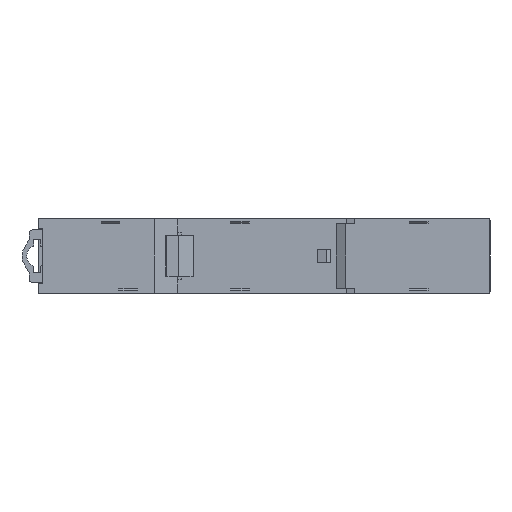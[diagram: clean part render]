
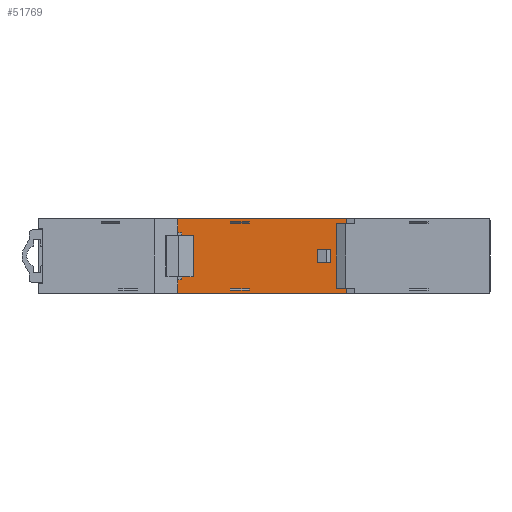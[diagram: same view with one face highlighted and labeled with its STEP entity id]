
A CAD part, front view. The second image highlights one B-rep face of the part: STEP entity #51769.
In plain terms, the highlighted planar face has unit normal (0, -1, 0).
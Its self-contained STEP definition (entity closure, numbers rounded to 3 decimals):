
#2694=ORIENTED_EDGE('',*,*,#13755,.T.);
#2695=ORIENTED_EDGE('',*,*,#13751,.T.);
#2696=ORIENTED_EDGE('',*,*,#13749,.T.);
#2697=ORIENTED_EDGE('',*,*,#13753,.T.);
#2698=ORIENTED_EDGE('',*,*,#13985,.F.);
#2699=ORIENTED_EDGE('',*,*,#13986,.T.);
#2700=ORIENTED_EDGE('',*,*,#13987,.T.);
#2701=ORIENTED_EDGE('',*,*,#13988,.T.);
#2702=ORIENTED_EDGE('',*,*,#13989,.T.);
#2703=ORIENTED_EDGE('',*,*,#13990,.T.);
#2704=ORIENTED_EDGE('',*,*,#13991,.T.);
#2705=ORIENTED_EDGE('',*,*,#13992,.T.);
#2706=ORIENTED_EDGE('',*,*,#13993,.T.);
#2707=ORIENTED_EDGE('',*,*,#13580,.F.);
#2708=ORIENTED_EDGE('',*,*,#13994,.T.);
#2709=ORIENTED_EDGE('',*,*,#13995,.F.);
#2710=ORIENTED_EDGE('',*,*,#13983,.F.);
#2711=ORIENTED_EDGE('',*,*,#13300,.T.);
#2712=ORIENTED_EDGE('',*,*,#13996,.F.);
#2713=ORIENTED_EDGE('',*,*,#13997,.F.);
#2714=ORIENTED_EDGE('',*,*,#13998,.F.);
#2715=ORIENTED_EDGE('',*,*,#13999,.F.);
#2716=ORIENTED_EDGE('',*,*,#14000,.T.);
#2717=ORIENTED_EDGE('',*,*,#14001,.T.);
#2718=ORIENTED_EDGE('',*,*,#14002,.T.);
#2719=ORIENTED_EDGE('',*,*,#14003,.T.);
#2720=ORIENTED_EDGE('',*,*,#14004,.T.);
#2721=ORIENTED_EDGE('',*,*,#14005,.T.);
#13300=EDGE_CURVE('',#19280,#19279,#23218,.T.);
#13580=EDGE_CURVE('',#19499,#19500,#23472,.T.);
#13749=EDGE_CURVE('',#19632,#19634,#23638,.T.);
#13751=EDGE_CURVE('',#19636,#19632,#23640,.T.);
#13753=EDGE_CURVE('',#19634,#19637,#23642,.T.);
#13755=EDGE_CURVE('',#19637,#19636,#23644,.T.);
#13983=EDGE_CURVE('',#19280,#19788,#23869,.T.);
#13985=EDGE_CURVE('',#19789,#19790,#23871,.T.);
#13986=EDGE_CURVE('',#19789,#19791,#23872,.T.);
#13987=EDGE_CURVE('',#19791,#19792,#23873,.T.);
#13988=EDGE_CURVE('',#19792,#19790,#23874,.T.);
#13989=EDGE_CURVE('',#19793,#19794,#23875,.T.);
#13990=EDGE_CURVE('',#19794,#19795,#23876,.T.);
#13991=EDGE_CURVE('',#19795,#19796,#23877,.T.);
#13992=EDGE_CURVE('',#19796,#19793,#23878,.T.);
#13993=EDGE_CURVE('',#19797,#19500,#23879,.T.);
#13994=EDGE_CURVE('',#19499,#19798,#23880,.T.);
#13995=EDGE_CURVE('',#19788,#19798,#23881,.T.);
#13996=EDGE_CURVE('',#19799,#19279,#23882,.T.);
#13997=EDGE_CURVE('',#19800,#19799,#23883,.T.);
#13998=EDGE_CURVE('',#19801,#19800,#23884,.T.);
#13999=EDGE_CURVE('',#19802,#19801,#23885,.T.);
#14000=EDGE_CURVE('',#19802,#19803,#23886,.T.);
#14001=EDGE_CURVE('',#19803,#19804,#23887,.T.);
#14002=EDGE_CURVE('',#19804,#19805,#23888,.T.);
#14003=EDGE_CURVE('',#19805,#19806,#23889,.T.);
#14004=EDGE_CURVE('',#19806,#19807,#23890,.T.);
#14005=EDGE_CURVE('',#19807,#19797,#23891,.T.);
#19279=VERTEX_POINT('',#67817);
#19280=VERTEX_POINT('',#67819);
#19499=VERTEX_POINT('',#68392);
#19500=VERTEX_POINT('',#68394);
#19632=VERTEX_POINT('',#68738);
#19634=VERTEX_POINT('',#68741);
#19636=VERTEX_POINT('',#68747);
#19637=VERTEX_POINT('',#68751);
#19788=VERTEX_POINT('',#69205);
#19789=VERTEX_POINT('',#69209);
#19790=VERTEX_POINT('',#69210);
#19791=VERTEX_POINT('',#69212);
#19792=VERTEX_POINT('',#69214);
#19793=VERTEX_POINT('',#69217);
#19794=VERTEX_POINT('',#69218);
#19795=VERTEX_POINT('',#69220);
#19796=VERTEX_POINT('',#69222);
#19797=VERTEX_POINT('',#69225);
#19798=VERTEX_POINT('',#69227);
#19799=VERTEX_POINT('',#69230);
#19800=VERTEX_POINT('',#69232);
#19801=VERTEX_POINT('',#69234);
#19802=VERTEX_POINT('',#69236);
#19803=VERTEX_POINT('',#69238);
#19804=VERTEX_POINT('',#69240);
#19805=VERTEX_POINT('',#69242);
#19806=VERTEX_POINT('',#69244);
#19807=VERTEX_POINT('',#69246);
#23218=LINE('',#67818,#28168);
#23472=LINE('',#68393,#28422);
#23638=LINE('',#68742,#28588);
#23640=LINE('',#68746,#28590);
#23642=LINE('',#68750,#28592);
#23644=LINE('',#68754,#28594);
#23869=LINE('',#69204,#28819);
#23871=LINE('',#69208,#28821);
#23872=LINE('',#69211,#28822);
#23873=LINE('',#69213,#28823);
#23874=LINE('',#69215,#28824);
#23875=LINE('',#69216,#28825);
#23876=LINE('',#69219,#28826);
#23877=LINE('',#69221,#28827);
#23878=LINE('',#69223,#28828);
#23879=LINE('',#69224,#28829);
#23880=LINE('',#69226,#28830);
#23881=LINE('',#69228,#28831);
#23882=LINE('',#69229,#28832);
#23883=LINE('',#69231,#28833);
#23884=LINE('',#69233,#28834);
#23885=LINE('',#69235,#28835);
#23886=LINE('',#69237,#28836);
#23887=LINE('',#69239,#28837);
#23888=LINE('',#69241,#28838);
#23889=LINE('',#69243,#28839);
#23890=LINE('',#69245,#28840);
#23891=LINE('',#69247,#28841);
#28168=VECTOR('',#56765,1000.);
#28422=VECTOR('',#57221,1000.);
#28588=VECTOR('',#57483,1000.);
#28590=VECTOR('',#57487,1000.);
#28592=VECTOR('',#57491,1000.);
#28594=VECTOR('',#57495,1000.);
#28819=VECTOR('',#57870,1000.);
#28821=VECTOR('',#57874,1000.);
#28822=VECTOR('',#57875,1000.);
#28823=VECTOR('',#57876,1000.);
#28824=VECTOR('',#57877,1000.);
#28825=VECTOR('',#57878,1000.);
#28826=VECTOR('',#57879,1000.);
#28827=VECTOR('',#57880,1000.);
#28828=VECTOR('',#57881,1000.);
#28829=VECTOR('',#57882,1000.);
#28830=VECTOR('',#57883,1000.);
#28831=VECTOR('',#57884,1000.);
#28832=VECTOR('',#57885,1000.);
#28833=VECTOR('',#57886,1000.);
#28834=VECTOR('',#57887,1000.);
#28835=VECTOR('',#57888,1000.);
#28836=VECTOR('',#57889,1000.);
#28837=VECTOR('',#57890,1000.);
#28838=VECTOR('',#57891,1000.);
#28839=VECTOR('',#57892,1000.);
#28840=VECTOR('',#57893,1000.);
#28841=VECTOR('',#57894,1000.);
#33317=EDGE_LOOP('',(#2694,#2695,#2696,#2697));
#33318=EDGE_LOOP('',(#2698,#2699,#2700,#2701));
#33319=EDGE_LOOP('',(#2702,#2703,#2704,#2705));
#33320=EDGE_LOOP('',(#2706,#2707,#2708,#2709,#2710,#2711,#2712,#2713,#2714,
#2715,#2716,#2717,#2718,#2719,#2720,#2721));
#35596=FACE_BOUND('',#33317,.T.);
#35597=FACE_BOUND('',#33318,.T.);
#35598=FACE_BOUND('',#33319,.T.);
#35599=FACE_BOUND('',#33320,.T.);
#37858=PLANE('',#53937);
#51769=ADVANCED_FACE('',(#35596,#35597,#35598,#35599),#37858,.T.);
#53937=AXIS2_PLACEMENT_3D('',#69207,#57872,#57873);
#56765=DIRECTION('',(0.,0.,1.));
#57221=DIRECTION('',(0.,0.,1.));
#57483=DIRECTION('',(1.,0.,0.));
#57487=DIRECTION('',(0.,0.,1.));
#57491=DIRECTION('',(0.,0.,-1.));
#57495=DIRECTION('',(-1.,0.,0.));
#57870=DIRECTION('',(1.,0.,0.));
#57872=DIRECTION('',(0.,-1.,0.));
#57873=DIRECTION('',(1.,0.,0.));
#57874=DIRECTION('',(1.,0.,0.));
#57875=DIRECTION('',(0.,0.,1.));
#57876=DIRECTION('',(1.,0.,0.));
#57877=DIRECTION('',(0.,0.,-1.));
#57878=DIRECTION('',(0.,0.,-1.));
#57879=DIRECTION('',(-1.,0.,0.));
#57880=DIRECTION('',(0.,0.,1.));
#57881=DIRECTION('',(1.,0.,0.));
#57882=DIRECTION('',(-1.,0.,0.));
#57883=DIRECTION('',(1.,0.,0.));
#57884=DIRECTION('',(0.,0.,-1.));
#57885=DIRECTION('',(-1.,0.,0.));
#57886=DIRECTION('',(0.,0.,-1.));
#57887=DIRECTION('',(1.,0.,0.));
#57888=DIRECTION('',(0.,0.,1.));
#57889=DIRECTION('',(1.,0.,0.));
#57890=DIRECTION('',(0.,0.,-1.));
#57891=DIRECTION('',(1.,0.,0.));
#57892=DIRECTION('',(0.,0.,-1.));
#57893=DIRECTION('',(-1.,0.,0.));
#57894=DIRECTION('',(0.,0.,-1.));
#67817=CARTESIAN_POINT('',(63.9,3.6,6.8));
#67818=CARTESIAN_POINT('',(63.9,3.6,0.));
#67819=CARTESIAN_POINT('',(63.9,3.6,-6.8));
#68392=CARTESIAN_POINT('',(28.4,3.6,-7.9));
#68393=CARTESIAN_POINT('',(28.4,3.6,0.));
#68394=CARTESIAN_POINT('',(28.4,3.6,-4.985));
#68738=CARTESIAN_POINT('',(58.034,3.6,1.4));
#68741=CARTESIAN_POINT('',(60.766,3.6,1.4));
#68742=CARTESIAN_POINT('',(43.909,3.6,1.4));
#68746=CARTESIAN_POINT('',(58.034,3.6,0.));
#68747=CARTESIAN_POINT('',(58.034,3.6,-1.4));
#68750=CARTESIAN_POINT('',(60.766,3.6,0.));
#68751=CARTESIAN_POINT('',(60.766,3.6,-1.4));
#68754=CARTESIAN_POINT('',(43.909,3.6,-1.4));
#69204=CARTESIAN_POINT('',(51.975,3.6,-6.8));
#69205=CARTESIAN_POINT('',(64.,3.6,-6.8));
#69207=CARTESIAN_POINT('',(28.4,3.6,0.));
#69208=CARTESIAN_POINT('',(45.1,3.6,6.9));
#69209=CARTESIAN_POINT('',(39.55,3.6,6.9));
#69210=CARTESIAN_POINT('',(43.55,3.6,6.9));
#69211=CARTESIAN_POINT('',(39.55,3.6,7.448));
#69212=CARTESIAN_POINT('',(39.55,3.6,7.2));
#69213=CARTESIAN_POINT('',(52.725,3.6,7.2));
#69214=CARTESIAN_POINT('',(43.55,3.6,7.2));
#69215=CARTESIAN_POINT('',(43.55,3.6,7.448));
#69216=CARTESIAN_POINT('',(43.55,3.6,-7.448));
#69217=CARTESIAN_POINT('',(43.55,3.6,-6.9));
#69218=CARTESIAN_POINT('',(43.55,3.6,-7.2));
#69219=CARTESIAN_POINT('',(52.725,3.6,-7.2));
#69220=CARTESIAN_POINT('',(39.55,3.6,-7.2));
#69221=CARTESIAN_POINT('',(39.55,3.6,-7.448));
#69222=CARTESIAN_POINT('',(39.55,3.6,-6.9));
#69223=CARTESIAN_POINT('',(28.4,3.6,-6.9));
#69224=CARTESIAN_POINT('',(27.221,3.6,-4.985));
#69225=CARTESIAN_POINT('',(29.22,3.6,-4.985));
#69226=CARTESIAN_POINT('',(28.4,3.6,-7.9));
#69227=CARTESIAN_POINT('',(64.,3.6,-7.9));
#69228=CARTESIAN_POINT('',(64.,3.6,7.9));
#69229=CARTESIAN_POINT('',(51.3,3.6,6.8));
#69230=CARTESIAN_POINT('',(64.,3.6,6.8));
#69231=CARTESIAN_POINT('',(64.,3.6,7.9));
#69232=CARTESIAN_POINT('',(64.,3.6,7.9));
#69233=CARTESIAN_POINT('',(28.4,3.6,7.9));
#69234=CARTESIAN_POINT('',(28.4,3.6,7.9));
#69235=CARTESIAN_POINT('',(28.4,3.6,0.));
#69236=CARTESIAN_POINT('',(28.4,3.6,4.915));
#69237=CARTESIAN_POINT('',(28.81,3.6,4.915));
#69238=CARTESIAN_POINT('',(29.22,3.6,4.915));
#69239=CARTESIAN_POINT('',(29.22,3.6,2.157));
#69240=CARTESIAN_POINT('',(29.22,3.6,4.315));
#69241=CARTESIAN_POINT('',(30.025,3.6,4.315));
#69242=CARTESIAN_POINT('',(29.65,3.6,4.315));
#69243=CARTESIAN_POINT('',(29.65,3.6,-2.192));
#69244=CARTESIAN_POINT('',(29.65,3.6,-4.385));
#69245=CARTESIAN_POINT('',(26.46,3.6,-4.385));
#69246=CARTESIAN_POINT('',(29.22,3.6,-4.385));
#69247=CARTESIAN_POINT('',(29.22,3.6,-2.492));
